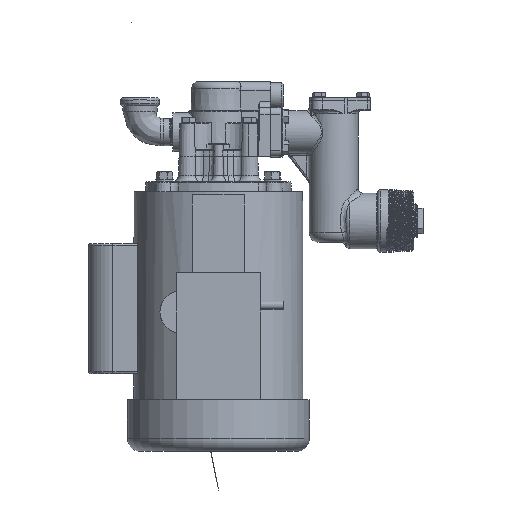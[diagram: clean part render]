
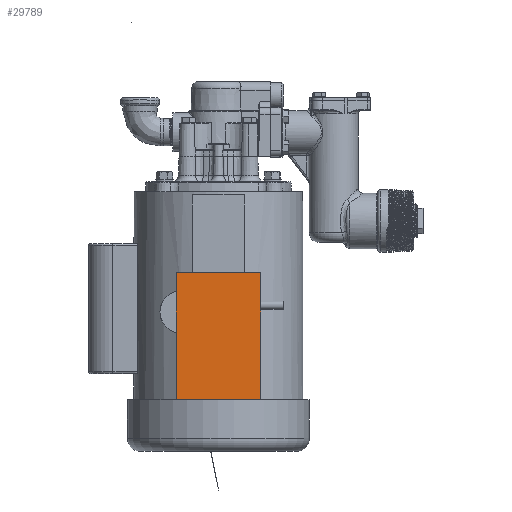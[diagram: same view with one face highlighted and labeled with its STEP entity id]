
A CAD part, left-side view. The second image highlights one B-rep face of the part: STEP entity #29789.
In plain terms, the highlighted planar face has unit normal (-1, 0, 0).
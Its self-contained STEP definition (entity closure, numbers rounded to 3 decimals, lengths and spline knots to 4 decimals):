
#2246=LINE('',#50745,#4248);
#2249=LINE('',#50750,#4251);
#2251=LINE('',#50754,#4253);
#2253=LINE('',#50757,#4255);
#4248=VECTOR('',#34698,0.3937);
#4251=VECTOR('',#34703,0.3937);
#4253=VECTOR('',#34707,0.3937);
#4255=VECTOR('',#34711,0.3937);
#6552=FACE_OUTER_BOUND('',#8350,.T.);
#8350=EDGE_LOOP('',(#18929,#18930,#18931,#18932));
#11521=VERTEX_POINT('',#50743);
#11522=VERTEX_POINT('',#50744);
#11523=VERTEX_POINT('',#50749);
#11524=VERTEX_POINT('',#50753);
#14347=EDGE_CURVE('',#11521,#11522,#2246,.T.);
#14350=EDGE_CURVE('',#11522,#11523,#2249,.T.);
#14352=EDGE_CURVE('',#11523,#11524,#2251,.T.);
#14354=EDGE_CURVE('',#11524,#11521,#2253,.T.);
#18929=ORIENTED_EDGE('',*,*,#14347,.F.);
#18930=ORIENTED_EDGE('',*,*,#14354,.F.);
#18931=ORIENTED_EDGE('',*,*,#14352,.F.);
#18932=ORIENTED_EDGE('',*,*,#14350,.F.);
#27288=PLANE('',#31730);
#29789=ADVANCED_FACE('',(#6552),#27288,.T.);
#31730=AXIS2_PLACEMENT_3D('',#50758,#34712,#34713);
#34698=DIRECTION('',(0.,0.,1.));
#34703=DIRECTION('',(0.,-1.,0.));
#34707=DIRECTION('',(0.,0.,-1.));
#34711=DIRECTION('',(0.,1.,0.));
#34712=DIRECTION('center_axis',(-1.,0.,0.));
#34713=DIRECTION('ref_axis',(0.,0.,
1.));
#50743=CARTESIAN_POINT('',(-5.5081,1.625,3.488));
#50744=CARTESIAN_POINT('',(-5.5081,1.625,8.358));
#50745=CARTESIAN_POINT('',(-5.5081,1.625,8.358));
#50749=CARTESIAN_POINT('',(-5.5081,-1.625,8.358));
#50750=CARTESIAN_POINT('',(-5.5081,-1.625,8.358));
#50753=CARTESIAN_POINT('',(-5.5081,-1.625,3.488));
#50754=CARTESIAN_POINT('',(-5.5081,-1.625,3.488));
#50757=CARTESIAN_POINT('',(-5.5081,1.625,3.488));
#50758=CARTESIAN_POINT('Origin',(-5.5081,0.,
5.923));
